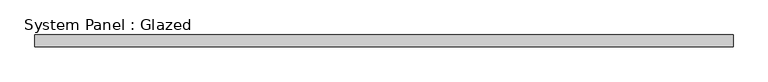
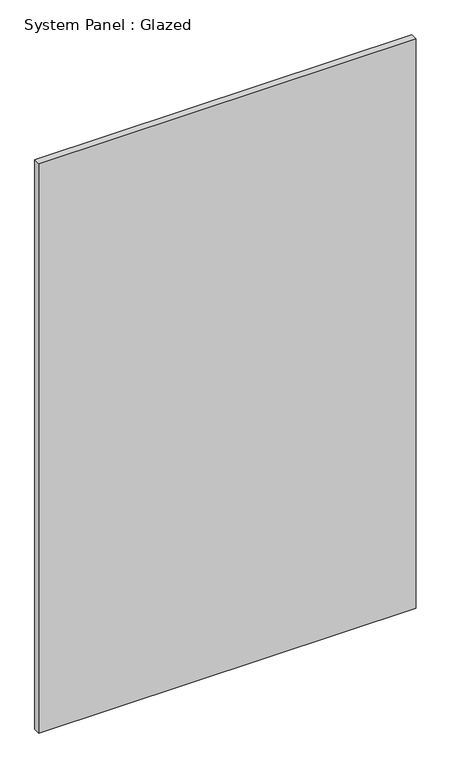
"""IFC4 building model written with IfcOpenShell, lengths in millimetres: plate geometry, System Panel : Glazed."""

from ifc_helpers import new_model, si_unit, origin, origin_with_axes, place, context, project, spatial, polyline, outline, extrude, source, transform, mapped, element, save


def system_panel_glazed_28d323ef(model_context):
    return source(origin(), model_context, "Body", "SweptSolid", [
        extrude(outline(polyline([(728.90625, 24.5), (-728.90625, 24.5), (-728.90625, 49.5), (728.90625, 49.5), (728.90625, 24.5)])), origin_with_axes(), (0.0, 0.0, 1.0), 2325.0),
    ])


if __name__ == "__main__":
    model = new_model("IFC4")
    model_context = context("Model", 3, world=origin())
    ifc_project = project(units=[si_unit("LENGTHUNIT", "METRE", prefix="MILLI")], contexts=[model_context])
    site = spatial("IfcSite", under=ifc_project)
    building = spatial("IfcBuilding", under=site)
    placement = place(None, origin())
    system_panel_glazed_shape = system_panel_glazed_28d323ef(model_context)
    element("IfcPlate", 1, ObjectType="System Panel : Glazed", at=placement, inside=building, context=model_context, shape_type="MappedRepresentation", body=[
        mapped(system_panel_glazed_shape, transform((0.0, 0.0, 0.0), x_axis=(1.0, 0.0, 0.0), y_axis=(0.0, 1.0, 0.0), z_axis=(0.0, 0.0, 1.0))),
    ])
    save(model, "model.ifc")
